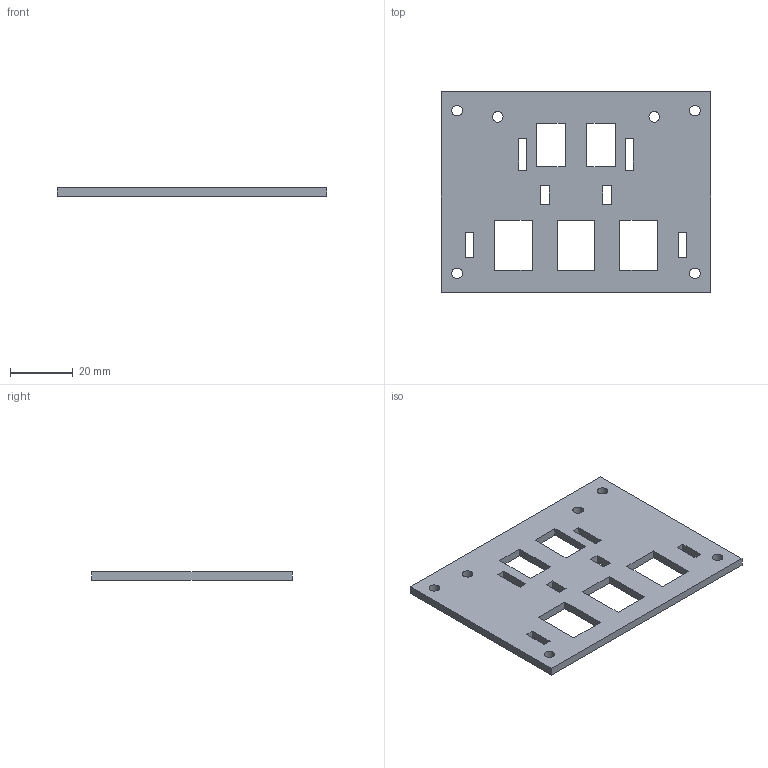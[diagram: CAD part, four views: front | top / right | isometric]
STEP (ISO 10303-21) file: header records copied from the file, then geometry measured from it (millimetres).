
FILE_DESCRIPTION(('Open CASCADE Model'),'2;1');
FILE_NAME('Open CASCADE Shape Model','2026-10-26T16:15:18',('Author'),( 'Open CASCADE'),'Open CASCADE STEP processor 7.8','Open CASCADE 7.8' ,'Unknown');
FILE_SCHEMA(('AUTOMOTIVE_DESIGN { 1 0 10303 214 1 1 1 1 }'));
Length unit declared in the file: millimetre
Products named in the file (1): Open CASCADE STEP translator 7.8 2
Bounding box: 86 x 64 x 2.6 mm (x, y, z)
Volume: 11679 mm3; surface area: 10941.4 mm2
Topology: 1 solids, 1 shells, 56 faces, 162 edges, 108 vertices
Faces by surface type: plane 50, cylinder 6
Full cylindrical faces by diameter (mm): 3.4 x6
Entity records: 3826 total; most frequent: CARTESIAN_POINT 827, DIRECTION 436, ORIENTED_EDGE 324, PCURVE 324, DEFINITIONAL_REPRESENTATION 324, LINE 286, VECTOR 286, B_SPLINE_CURVE_WITH_KNOTS 176
